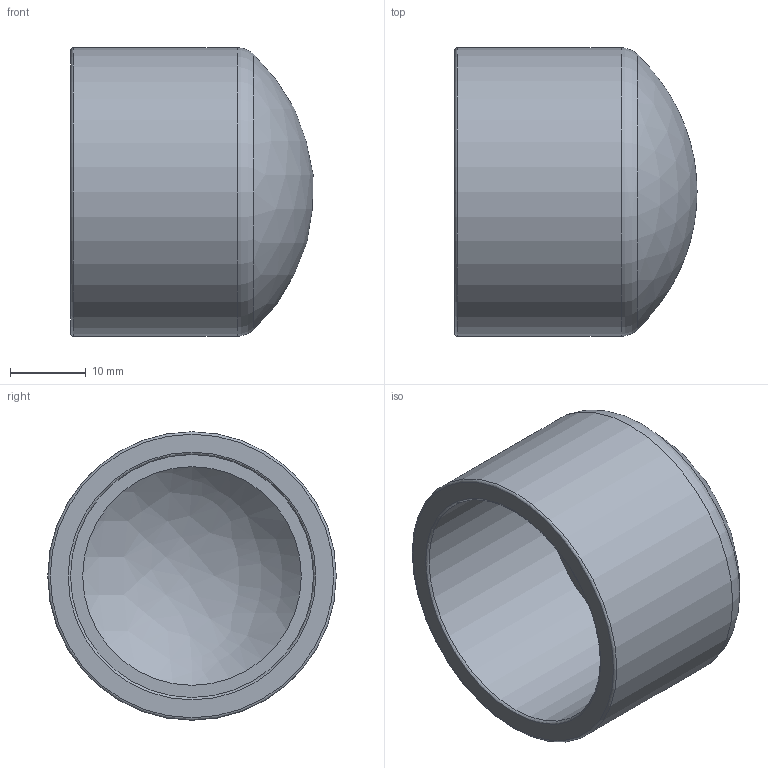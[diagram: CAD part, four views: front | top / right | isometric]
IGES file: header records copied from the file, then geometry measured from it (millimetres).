
Global section: file name: 050700032.ipt; native system: Autodesk Inventor 2015; preprocessor: unknown; author: KIM; date: 20171207.164803; units: millimetre
Bounding box: 31.9 x 38 x 38 mm (x, y, z)
Volume: 11877.5 mm3; surface area: 7551 mm2
Topology: 1 solids, 1 shells, 9 faces, 21 edges, 16 vertices
Faces by surface type: revolution 5, plane 2, cylinder 1, sphere 1
Full cylindrical faces by diameter (mm): 38 x1
